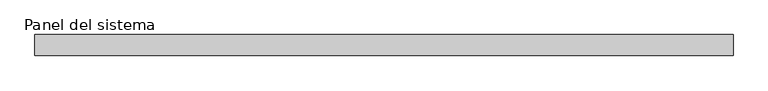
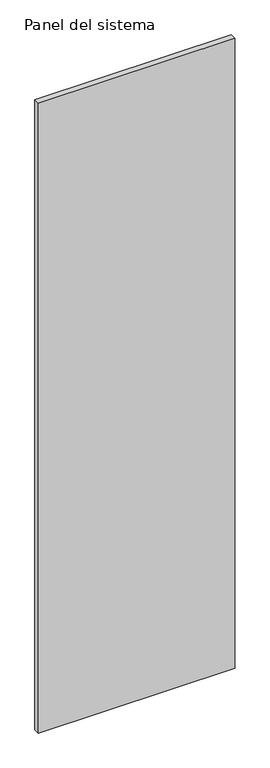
"""IFC4 building model written with IfcOpenShell, lengths in millimetres: plate geometry, Panel del sistema : HIANSA PANEL - PANELES DE CUBIERTA SIN TAPAJUNTA - EASY ALU 5GR - Esp. 30mm."""

from ifc_helpers import new_model, si_unit, origin, origin_with_axes, place, context, project, spatial, polyline, outline, extrude, source, transform, mapped, element, save


def panel_del_sistema_68a6e451(model_context):
    return source(origin(), model_context, "Body", "SweptSolid", [
        extrude(outline(polyline([(500.0000002, 0.0), (-500.0000002, 0.0), (-500.0000002, 30.0), (500.0000002, 30.0), (500.0000002, 0.0)])), origin_with_axes(), (0.0, 0.0, 1.0), 3390.8509027),
    ])


if __name__ == "__main__":
    model = new_model("IFC4")
    model_context = context("Model", 3, world=origin())
    ifc_project = project(units=[si_unit("LENGTHUNIT", "METRE", prefix="MILLI")], contexts=[model_context])
    site = spatial("IfcSite", under=ifc_project)
    building = spatial("IfcBuilding", under=site)
    placement = place(None, origin())
    panel_del_sistema_shape = panel_del_sistema_68a6e451(model_context)
    element("IfcPlate", 1, ObjectType="Panel del sistema : HIANSA PANEL - PANELES DE CUBIERTA SIN TAPAJUNTA - EASY ALU 5GR - Esp. 30mm", at=placement, inside=building, context=model_context, shape_type="MappedRepresentation", body=[
        mapped(panel_del_sistema_shape, transform((0.0, 0.0, 0.0), x_axis=(1.0, 0.0, 0.0), y_axis=(0.0, 1.0, 0.0), z_axis=(0.0, 0.0, 1.0))),
    ])
    save(model, "model.ifc")
